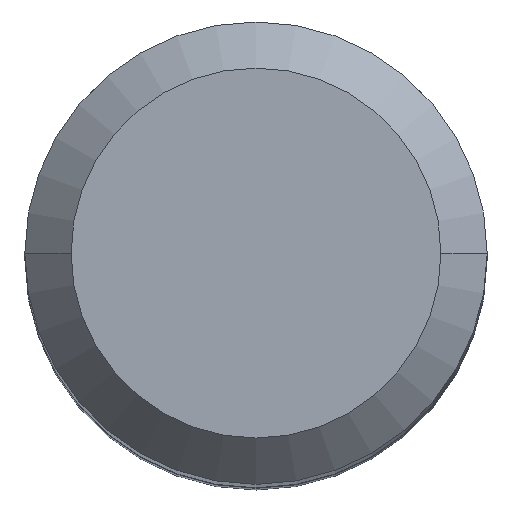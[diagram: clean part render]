
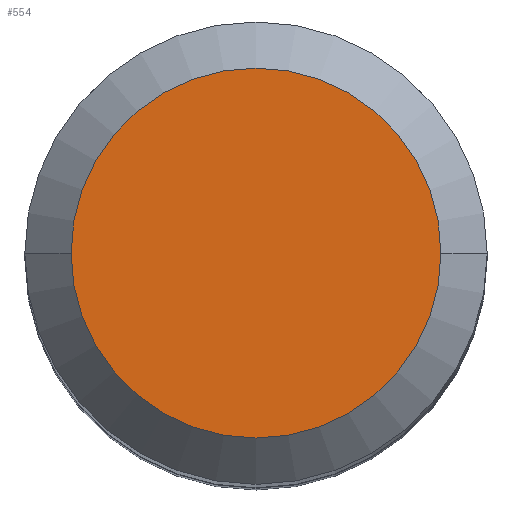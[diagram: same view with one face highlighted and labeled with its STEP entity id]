
A CAD part, top view. The second image highlights one B-rep face of the part: STEP entity #554.
In plain terms, the highlighted planar face has unit normal (0, 0, 1).
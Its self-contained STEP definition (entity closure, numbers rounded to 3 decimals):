
#5 = EDGE_CURVE ( 'NONE', #429, #77, #7, .T. ) ;
#7 = CIRCLE ( 'NONE', #311, 4. ) ;
#18 = EDGE_LOOP ( 'NONE', ( #505, #401 ) ) ;
#55 = DIRECTION ( 'NONE',  ( 0., 0., -1. ) ) ;
#77 = VERTEX_POINT ( 'NONE', #321 ) ;
#150 = AXIS2_PLACEMENT_3D ( 'NONE', #379, #55, #272 ) ;
#185 = DIRECTION ( 'NONE',  ( -1., 0., 0. ) ) ;
#243 = CIRCLE ( 'NONE', #150, 4. ) ;
#272 = DIRECTION ( 'NONE',  ( -1., 0., 0. ) ) ;
#291 = PLANE ( 'NONE',  #578 ) ;
#293 = CARTESIAN_POINT ( 'NONE',  ( 0., 4., 0. ) ) ;
#311 = AXIS2_PLACEMENT_3D ( 'NONE', #673, #352, #185 ) ;
#321 = CARTESIAN_POINT ( 'NONE',  ( -4., 0., 0. ) ) ;
#352 = DIRECTION ( 'NONE',  ( 0., 0., -1. ) ) ;
#379 = CARTESIAN_POINT ( 'NONE',  ( 0., 0., 0. ) ) ;
#401 = ORIENTED_EDGE ( 'NONE', *, *, #5, .F. ) ;
#407 = FACE_OUTER_BOUND ( 'NONE', #18, .T. ) ;
#429 = VERTEX_POINT ( 'NONE', #528 ) ;
#464 = DIRECTION ( 'NONE',  ( 1., 0., 0. ) ) ;
#505 = ORIENTED_EDGE ( 'NONE', *, *, #696, .F. ) ;
#521 = DIRECTION ( 'NONE',  ( 0., 0., 1. ) ) ;
#528 = CARTESIAN_POINT ( 'NONE',  ( 4., 0., 0. ) ) ;
#554 = ADVANCED_FACE ( 'NONE', ( #407 ), #291, .T. ) ;
#578 = AXIS2_PLACEMENT_3D ( 'NONE', #293, #521, #464 ) ;
#673 = CARTESIAN_POINT ( 'NONE',  ( 0., 0., 0. ) ) ;
#696 = EDGE_CURVE ( 'NONE', #77, #429, #243, .T. ) ;
